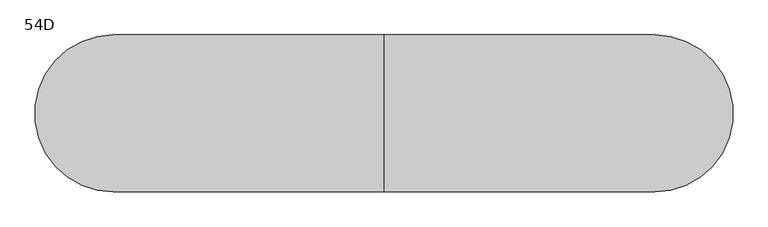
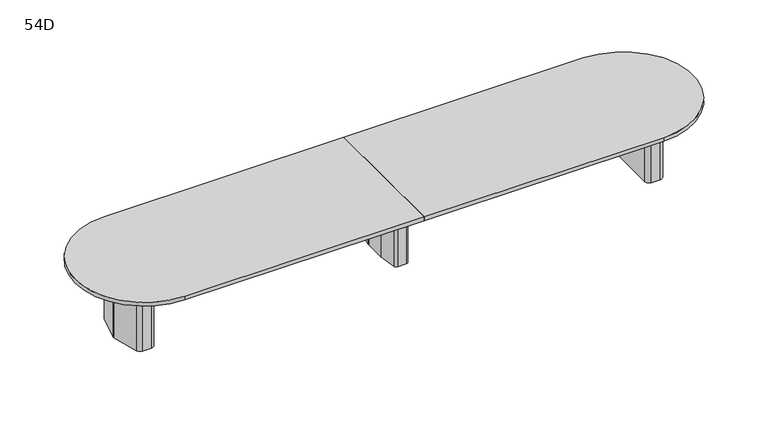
"""IFC4 building model written with IfcOpenShell, lengths in millimetres: furniture geometry, Coalesse_AM_Table_Conference_ETable2_Racetrack_20ft_ThreeBase : 54D."""

from ifc_helpers import new_model, si_unit, point, frame, frame_2d, origin, place, context, project, spatial, polyline, circle_curve, trimmed, segment, composite_curve, outline, extrude, source, transform, mapped, element, save
from ifc_brep_helpers import plane_surface, cylinder_surface, revolved_surface, advanced_brep


def furniture_54d_4fca18bc(model_context):
    return source(origin(), model_context, "Body", "SolidModel", [
        advanced_brep(
        [(35.71875, 206.375, 3.175), (10.31875, 231.775, 3.175), (-10.31875, 231.775, 3.175), (-35.71875, 206.375, 3.175), (-35.71875, -206.375, 3.175), (-10.31875, -231.775, 3.175), (10.31875, -231.775, 3.175), (35.71875, -206.375, 3.175), (-61.11875, 206.375, 0.0), (-10.31875, 257.175, 0.0), (10.31875, 257.175, 0.0), (61.11875, 206.375, 0.0), (61.11875, -206.375, 0.0), (10.31875, -257.175, 0.0), (-10.31875, -257.175, 0.0), (-61.11875, -206.375, 0.0), (-61.11875, -206.375, 3.175), (-61.11875, 206.375, 3.175), (-10.31875, -257.175, 3.175), (10.31875, -257.175, 3.175), (61.11875, -206.375, 3.175), (61.11875, 206.375, 3.175), (10.31875, 257.175, 3.175), (-10.31875, 257.175, 3.175), (-92.6215974, 106.2976848, 698.5), (-92.86875, 102.7629613, 698.5), (-92.86875, -102.7629613, 698.5), (-92.6215974, -106.2976848, 698.5), (-67.7988375, -282.9347235, 698.5), (-42.6459902, -304.8, 698.5), (42.6459902, -304.8, 698.5), (67.7988375, -282.9347235, 698.5), (92.6215974, -106.2976848, 698.5), (92.86875, -102.7629613, 698.5), (92.86875, 102.7629613, 698.5), (92.6215974, 106.2976848, 698.5), (67.7988375, 282.9347235, 698.5), (42.6459902, 304.8, 698.5), (-42.6459902, 304.8, 698.5), (-67.7988375, 282.9347235, 698.5), (10.31875, 231.775, 698.5), (35.71875, 206.375, 698.5), (35.71875, -206.375, 698.5), (10.31875, -231.775, 698.5), (-10.31875, -231.775, 698.5), (-35.71875, -206.375, 698.5), (-35.71875, 206.375, 698.5), (-10.31875, 231.775, 698.5), (-92.6215974, 106.2976848, 3.175), (-67.7988375, 282.9347235, 3.175), (-42.6459902, 304.8, 3.175), (42.6459902, 304.8, 3.175), (67.7988375, 282.9347235, 3.175), (92.6215974, 106.2976848, 3.175), (92.86875, 102.7629613, 3.175), (92.86875, -102.7629613, 3.175), (92.6215974, -106.2976848, 3.175), (67.7988375, -282.9347235, 3.175), (42.6459902, -304.8, 3.175), (-42.6459902, -304.8, 3.175), (-67.7988375, -282.9347235, 3.175), (-92.6215974, -106.2976848, 3.175), (-92.86875, -102.7629613, 3.175), (-92.86875, 102.7629613, 3.175)],
        [
            (0, 1, circle_curve(frame((10.31875, 206.375, 3.175), z_axis=(0.0, 0.0, 1.0), x_axis=(1.0, 0.0, 0.0)), 25.4)),
            (1, 2),
            (2, 3, circle_curve(frame((-10.31875, 206.375, 3.175), z_axis=(0.0, 0.0, 1.0), x_axis=(1.0, 0.0, 0.0)), 25.4)),
            (3, 4),
            (4, 5, circle_curve(frame((-10.31875, -206.375, 3.175), z_axis=(0.0, 0.0, 1.0), x_axis=(1.0, 0.0, 0.0)), 25.4)),
            (5, 6),
            (6, 7, circle_curve(frame((10.31875, -206.375, 3.175), z_axis=(0.0, 0.0, 1.0), x_axis=(1.0, 0.0, 0.0)), 25.4)),
            (7, 0),
            (8, 9, circle_curve(frame((-10.31875, 206.375, 0.0), z_axis=(0.0, 0.0, -1.0), x_axis=(1.0, 0.0, 0.0)), 50.8)),
            (9, 10),
            (10, 11, circle_curve(frame((10.31875, 206.375, 0.0), z_axis=(0.0, 0.0, -1.0), x_axis=(1.0, 0.0, 0.0)), 50.8)),
            (11, 12),
            (12, 13, circle_curve(frame((10.31875, -206.375, 0.0), z_axis=(0.0, 0.0, -1.0), x_axis=(1.0, 0.0, 0.0)), 50.8)),
            (13, 14),
            (14, 15, circle_curve(frame((-10.31875, -206.375, 0.0), z_axis=(0.0, 0.0, -1.0), x_axis=(1.0, 0.0, 0.0)), 50.8)),
            (15, 8),
            (15, 16),
            (16, 17),
            (17, 8),
            (14, 18),
            (18, 16, circle_curve(frame((-10.31875, -206.375, 3.175), z_axis=(0.0, 0.0, -1.0), x_axis=(1.0, 0.0, 0.0)), 50.8)),
            (13, 19),
            (19, 18),
            (12, 20),
            (20, 19, circle_curve(frame((10.31875, -206.375, 3.175), z_axis=(0.0, 0.0, -1.0), x_axis=(1.0, 0.0, 0.0)), 50.8)),
            (11, 21),
            (21, 20),
            (10, 22),
            (22, 21, circle_curve(frame((10.31875, 206.375, 3.175), z_axis=(0.0, 0.0, -1.0), x_axis=(1.0, 0.0, 0.0)), 50.8)),
            (9, 23),
            (23, 22),
            (17, 23, circle_curve(frame((-10.31875, 206.375, 3.175), z_axis=(0.0, 0.0, -1.0), x_axis=(1.0, 0.0, 0.0)), 50.8)),
            (24, 25, circle_curve(frame((-67.46875, 102.7629613, 698.5), z_axis=(0.0, 0.0, 1.0), x_axis=(1.0, 0.0, 0.0)), 25.4)),
            (25, 26),
            (26, 27, circle_curve(frame((-67.46875, -102.7629613, 698.5), z_axis=(0.0, 0.0, 1.0), x_axis=(1.0, 0.0, 0.0)), 25.4)),
            (27, 28),
            (28, 29, circle_curve(frame((-42.6459902, -279.4, 698.5), z_axis=(0.0, 0.0, 1.0), x_axis=(1.0, 0.0, 0.0)), 25.4)),
            (29, 30),
            (30, 31, circle_curve(frame((42.6459902, -279.4, 698.5), z_axis=(0.0, 0.0, 1.0), x_axis=(1.0, 0.0, 0.0)), 25.4)),
            (31, 32),
            (32, 33, circle_curve(frame((67.46875, -102.7629613, 698.5), z_axis=(0.0, 0.0, 1.0), x_axis=(1.0, 0.0, 0.0)), 25.4)),
            (33, 34),
            (34, 35, circle_curve(frame((67.46875, 102.7629613, 698.5), z_axis=(0.0, 0.0, 1.0), x_axis=(1.0, 0.0, 0.0)), 25.4)),
            (35, 36),
            (36, 37, circle_curve(frame((42.6459902, 279.4, 698.5), z_axis=(0.0, 0.0, 1.0), x_axis=(1.0, 0.0, 0.0)), 25.4)),
            (37, 38),
            (38, 39, circle_curve(frame((-42.6459902, 279.4, 698.5), z_axis=(0.0, 0.0, 1.0), x_axis=(1.0, 0.0, 0.0)), 25.4)),
            (39, 24),
            (40, 41, circle_curve(frame((10.31875, 206.375, 698.5), z_axis=(0.0, 0.0, -1.0), x_axis=(1.0, 0.0, 0.0)), 25.4)),
            (41, 42),
            (42, 43, circle_curve(frame((10.31875, -206.375, 698.5), z_axis=(0.0, 0.0, -1.0), x_axis=(1.0, 0.0, 0.0)), 25.4)),
            (43, 44),
            (44, 45, circle_curve(frame((-10.31875, -206.375, 698.5), z_axis=(0.0, 0.0, -1.0), x_axis=(1.0, 0.0, 0.0)), 25.4)),
            (45, 46),
            (46, 47, circle_curve(frame((-10.31875, 206.375, 698.5), z_axis=(0.0, 0.0, -1.0), x_axis=(1.0, 0.0, 0.0)), 25.4)),
            (47, 40),
            (48, 49),
            (49, 50, circle_curve(frame((-42.6459902, 279.4, 3.175), z_axis=(0.0, 0.0, -1.0), x_axis=(1.0, 0.0, 0.0)), 25.4)),
            (50, 51),
            (51, 52, circle_curve(frame((42.6459902, 279.4, 3.175), z_axis=(0.0, 0.0, -1.0), x_axis=(1.0, 0.0, 0.0)), 25.4)),
            (52, 53),
            (53, 54, circle_curve(frame((67.46875, 102.7629613, 3.175), z_axis=(0.0, 0.0, -1.0), x_axis=(1.0, 0.0, 0.0)), 25.4)),
            (54, 55),
            (55, 56, circle_curve(frame((67.46875, -102.7629613, 3.175), z_axis=(0.0, 0.0, -1.0), x_axis=(1.0, 0.0, 0.0)), 25.4)),
            (56, 57),
            (57, 58, circle_curve(frame((42.6459902, -279.4, 3.175), z_axis=(0.0, 0.0, -1.0), x_axis=(1.0, 0.0, 0.0)), 25.4)),
            (58, 59),
            (59, 60, circle_curve(frame((-42.6459902, -279.4, 3.175), z_axis=(0.0, 0.0, -1.0), x_axis=(1.0, 0.0, 0.0)), 25.4)),
            (60, 61),
            (61, 62, circle_curve(frame((-67.46875, -102.7629613, 3.175), z_axis=(0.0, 0.0, -1.0), x_axis=(1.0, 0.0, 0.0)), 25.4)),
            (62, 63),
            (63, 48, circle_curve(frame((-67.46875, 102.7629613, 3.175), z_axis=(0.0, 0.0, -1.0), x_axis=(1.0, 0.0, 0.0)), 25.4)),
            (24, 48),
            (63, 25),
            (62, 26),
            (61, 27),
            (60, 28),
            (59, 29),
            (58, 30),
            (57, 31),
            (56, 32),
            (55, 33),
            (54, 34),
            (53, 35),
            (52, 36),
            (51, 37),
            (50, 38),
            (49, 39),
            (40, 1),
            (0, 41),
            (7, 42),
            (6, 43),
            (5, 44),
            (4, 45),
            (3, 46),
            (2, 47),
        ],
        [
            plane_surface(frame((-61.11875, -206.375, 3.175), z_axis=(0.0, 0.0, 1.0), x_axis=(0.0, -1.0, 0.0))),
            plane_surface(frame((-61.11875, -206.375, 0.0), z_axis=(0.0, 0.0, -1.0), x_axis=(0.0, 1.0, 0.0))),
            plane_surface(frame((-61.11875, 206.375, 3.175), z_axis=(-1.0, 0.0, 0.0), x_axis=(0.0, 0.0, -1.0))),
            cylinder_surface(frame((-10.31875, -206.375, 0.0), z_axis=(0.0, 0.0, 1.0), x_axis=(1.0, 0.0, 0.0)), 50.8),
            plane_surface(frame((-10.31875, -257.175, 3.175), z_axis=(0.0, -1.0, 0.0), x_axis=(0.0, 0.0, -1.0))),
            cylinder_surface(frame((10.31875, -206.375, 0.0), z_axis=(0.0, 0.0, 1.0), x_axis=(1.0, 0.0, 0.0)), 50.8),
            plane_surface(frame((61.11875, -206.375, 3.175), z_axis=(1.0, 0.0, 0.0), x_axis=(0.0, 0.0, -1.0))),
            cylinder_surface(frame((10.31875, 206.375, 0.0), z_axis=(0.0, 0.0, 1.0), x_axis=(1.0, 0.0, 0.0)), 50.8),
            plane_surface(frame((10.31875, 257.175, 3.175), z_axis=(0.0, 1.0, 0.0), x_axis=(0.0, 0.0, -1.0))),
            cylinder_surface(frame((-10.31875, 206.375, 0.0), z_axis=(0.0, 0.0, 1.0), x_axis=(1.0, 0.0, 0.0)), 50.8),
            plane_surface(frame((-42.06875, 102.7629613, 698.5), z_axis=(0.0, 0.0, 1.0), x_axis=(0.0, 1.0, 0.0))),
            plane_surface(frame((-42.06875, 102.7629613, 3.175), z_axis=(0.0, 0.0, -1.0), x_axis=(0.0, -1.0, 0.0))),
            cylinder_surface(frame((-67.46875, 102.7629613, 3.175), z_axis=(0.0, 0.0, 1.0), x_axis=(1.0, 0.0, 0.0)), 25.4),
            plane_surface(frame((-92.86875, 102.7629613, 698.5), z_axis=(-1.0, 0.0, 0.0), x_axis=(0.0, 0.0, -1.0))),
            cylinder_surface(frame((-67.46875, -102.7629613, 3.175), z_axis=(0.0, 0.0, 1.0), x_axis=(1.0, 0.0, 0.0)), 25.4),
            plane_surface(frame((-92.6215974, -106.2976848, 698.5), z_axis=(-0.9902695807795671, -0.13916234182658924, 0.0), x_axis=(0.0, 0.0, -1.0))),
            cylinder_surface(frame((-42.6459902, -279.4, 3.175), z_axis=(0.0, 0.0, 1.0), x_axis=(1.0, 0.0, 0.0)), 25.4),
            plane_surface(frame((-42.6459902, -304.8, 698.5), z_axis=(0.0, -1.0, 0.0), x_axis=(0.0, 0.0, -1.0))),
            cylinder_surface(frame((42.6459902, -279.4, 3.175), z_axis=(0.0, 0.0, 1.0), x_axis=(1.0, 0.0, 0.0)), 25.4),
            plane_surface(frame((67.7988375, -282.9347235, 698.5), z_axis=(0.9902695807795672, -0.13916234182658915, 0.0), x_axis=(0.0, 0.0, -1.0))),
            cylinder_surface(frame((67.46875, -102.7629613, 3.175), z_axis=(0.0, 0.0, 1.0), x_axis=(1.0, 0.0, 0.0)), 25.4),
            plane_surface(frame((92.86875, -102.7629613, 698.5), z_axis=(1.0, 0.0, 0.0), x_axis=(0.0, 0.0, -1.0))),
            cylinder_surface(frame((67.46875, 102.7629613, 3.175), z_axis=(0.0, 0.0, 1.0), x_axis=(1.0, 0.0, 0.0)), 25.4),
            plane_surface(frame((92.6215974, 106.2976848, 698.5), z_axis=(0.9902695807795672, 0.1391623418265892, 0.0), x_axis=(0.0, 0.0, -1.0))),
            cylinder_surface(frame((42.6459902, 279.4, 3.175), z_axis=(0.0, 0.0, 1.0), x_axis=(1.0, 0.0, 0.0)), 25.4),
            plane_surface(frame((42.6459902, 304.8, 698.5), z_axis=(0.0, 1.0, 0.0), x_axis=(0.0, 0.0, -1.0))),
            cylinder_surface(frame((-42.6459902, 279.4, 3.175), z_axis=(0.0, 0.0, 1.0), x_axis=(1.0, 0.0, 0.0)), 25.4),
            plane_surface(frame((-67.7988375, 282.9347235, 698.5), z_axis=(-0.9902695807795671, 0.13916234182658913, 0.0), x_axis=(0.0, 0.0, -1.0))),
            revolved_surface(polyline([(35.71875, 206.375, 3.175), (35.71875, 206.375, 698.5)]), (10.31875, 206.375, 0.0), (0.0, 0.0, -1.0)),
            plane_surface(frame((35.71875, 206.375, 698.5), z_axis=(-1.0, 0.0, 0.0), x_axis=(0.0, 0.0, -1.0))),
            revolved_surface(polyline([(35.71875, -206.375, 3.175), (35.71875, -206.375, 698.5)]), (10.31875, -206.375, 0.0), (0.0, 0.0, -1.0)),
            plane_surface(frame((10.31875, -231.775, 698.5), z_axis=(0.0, 1.0, 0.0), x_axis=(0.0, 0.0, -1.0))),
            revolved_surface(polyline([(15.081249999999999, -206.375, 3.175), (15.081249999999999, -206.375, 698.5)]), (-10.31875, -206.375, 0.0), (0.0, 0.0, -1.0)),
            plane_surface(frame((-35.71875, -206.375, 698.5), z_axis=(1.0, 0.0, 0.0), x_axis=(0.0, 0.0, -1.0))),
            revolved_surface(polyline([(15.081249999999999, 206.375, 3.175), (15.081249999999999, 206.375, 698.5)]), (-10.31875, 206.375, 0.0), (0.0, 0.0, -1.0)),
            plane_surface(frame((-10.31875, 231.775, 698.5), z_axis=(0.0, -1.0, 0.0), x_axis=(0.0, 0.0, -1.0))),
        ],
        [
            (0, [[1, 2, 3, 4, 5, 6, 7, 8]]),
            (1, [[9, 10, 11, 12, 13, 14, 15, 16]]),
            (2, [[-16, 17, 18, 19]]),
            (3, [[-15, 20, 21, -17]]),
            (4, [[-14, 22, 23, -20]]),
            (5, [[-13, 24, 25, -22]]),
            (6, [[-12, 26, 27, -24]]),
            (7, [[-11, 28, 29, -26]]),
            (8, [[-10, 30, 31, -28]]),
            (9, [[-9, -19, 32, -30]]),
            (10, [[33, 34, 35, 36, 37, 38, 39, 40, 41, 42, 43, 44, 45, 46, 47, 48], [49, 50, 51, 52, 53, 54, 55, 56]]),
            (11, [[57, 58, 59, 60, 61, 62, 63, 64, 65, 66, 67, 68, 69, 70, 71, 72], [-18, -21, -23, -25, -27, -29, -31, -32]]),
            (12, [[-33, 73, -72, 74]]),
            (13, [[-34, -74, -71, 75]]),
            (14, [[-35, -75, -70, 76]]),
            (15, [[-36, -76, -69, 77]]),
            (16, [[-37, -77, -68, 78]]),
            (17, [[-38, -78, -67, 79]]),
            (18, [[-39, -79, -66, 80]]),
            (19, [[-40, -80, -65, 81]]),
            (20, [[-41, -81, -64, 82]]),
            (21, [[-42, -82, -63, 83]]),
            (22, [[-43, -83, -62, 84]]),
            (23, [[-44, -84, -61, 85]]),
            (24, [[-45, -85, -60, 86]]),
            (25, [[-46, -86, -59, 87]]),
            (26, [[-47, -87, -58, 88]]),
            (27, [[-48, -88, -57, -73]]),
            (28, [[-49, 89, -1, 90]]),
            (29, [[-50, -90, -8, 91]]),
            (30, [[-51, -91, -7, 92]]),
            (31, [[-52, -92, -6, 93]]),
            (32, [[-53, -93, -5, 94]]),
            (33, [[-54, -94, -4, 95]]),
            (34, [[-55, -95, -3, 96]]),
            (35, [[-56, -96, -2, -89]]),
        ],
    ),
        advanced_brep(
        [(2589.424548, 274.2093613, 698.5), (2549.5579246, 304.8, 698.5), (2460.625, 304.8, 698.5), (2419.35, 263.525, 698.5), (2419.35, -263.525, 698.5), (2460.625, -304.8, 698.5), (2549.5579246, -304.8, 698.5), (2589.424548, -274.2093613, 698.5), (2660.0503901, -10.6333708, 698.5), (2660.0503901, 10.6333708, 698.5), (2457.45, -206.375, 698.5), (2457.45, 206.375, 698.5), (2482.85, 231.775, 698.5), (2541.8608422, 231.775, 698.5), (2566.395338, 212.9490792, 698.5), (2605.0875, 68.54974, 698.5), (2605.0875, -68.54974, 698.5), (2566.395338, -212.9490792, 698.5), (2541.8608422, -231.775, 698.5), (2482.85, -231.775, 698.5), (2589.424548, 274.2093613, 3.175), (2660.0503901, 10.6333708, 3.175), (2660.0503901, -10.6333708, 3.175), (2589.424548, -274.2093613, 3.175), (2549.5579246, -304.8, 3.175), (2460.625, -304.8, 3.175), (2419.35, -263.525, 3.175), (2419.35, 263.525, 3.175), (2460.625, 304.8, 3.175), (2549.5579246, 304.8, 3.175), (2578.6625859, 216.2361187, 3.175), (2541.8608422, 244.475, 3.175), (2482.85, 244.475, 3.175), (2444.75, 206.375, 3.175), (2444.75, -206.375, 3.175), (2482.85, -244.475, 3.175), (2541.8608422, -244.475, 3.175), (2578.6625859, -216.2361187, 3.175), (2617.7875, -70.2217466, 3.175), (2617.7875, 70.2217466, 3.175), (2482.85, -231.775, 3.175), (2457.45, -206.375, 3.175), (2541.8608422, -231.775, 3.175), (2566.395338, -212.9490792, 3.175), (2605.0875, -68.54974, 3.175), (2605.0875, 68.54974, 3.175), (2566.395338, 212.9490792, 3.175), (2541.8608422, 231.775, 3.175), (2482.85, 231.775, 3.175), (2457.45, 206.375, 3.175), (2578.6625859, 216.2361187, 0.0), (2617.7875, 70.2217466, 0.0), (2617.7875, -70.2217466, 0.0), (2578.6625859, -216.2361187, 0.0), (2541.8608422, -244.475, 0.0), (2482.85, -244.475, 0.0), (2444.75, -206.375, 0.0), (2444.75, 206.375, 0.0), (2482.85, 244.475, 0.0), (2541.8608422, 244.475, 0.0)],
        [
            (0, 1, circle_curve(frame((2549.5579246, 263.5270004, 698.5), z_axis=(0.0, 0.0, 1.0), x_axis=(-1.0, 0.0, 0.0)), 41.2729996)),
            (1, 2),
            (2, 3, circle_curve(frame((2460.625, 263.525, 698.5), z_axis=(0.0, 0.0, 1.0), x_axis=(-1.0, 0.0, 0.0)), 41.275)),
            (3, 4),
            (4, 5, circle_curve(frame((2460.625, -263.525, 698.5), z_axis=(0.0, 0.0, 1.0), x_axis=(-1.0, 0.0, 0.0)), 41.275)),
            (5, 6),
            (6, 7, circle_curve(frame((2549.5579246, -263.5270004, 698.5), z_axis=(0.0, 0.0, 1.0), x_axis=(-1.0, 0.0, 0.0)), 41.2729996)),
            (7, 8),
            (8, 9, circle_curve(frame((2620.3665979, 0.0, 698.5), z_axis=(0.0, 0.0, 1.0), x_axis=(-1.0, 0.0, 0.0)), 41.0837187)),
            (9, 0),
            (10, 11),
            (11, 12, circle_curve(frame((2482.85, 206.375, 698.5), z_axis=(0.0, 0.0, -1.0), x_axis=(-1.0, 0.0, 0.0)), 25.4)),
            (12, 13),
            (13, 14, circle_curve(frame((2541.8608422, 206.375, 698.5), z_axis=(0.0, 0.0, -1.0), x_axis=(-1.0, 0.0, 0.0)), 25.4)),
            (14, 15),
            (15, 16),
            (16, 17),
            (17, 18, circle_curve(frame((2541.8608422, -206.375, 698.5), z_axis=(0.0, 0.0, -1.0), x_axis=(-1.0, 0.0, 0.0)), 25.4)),
            (18, 19),
            (19, 10, circle_curve(frame((2482.85, -206.375, 698.5), z_axis=(0.0, 0.0, -1.0), x_axis=(-1.0, 0.0, 0.0)), 25.4)),
            (20, 21),
            (21, 22, circle_curve(frame((2620.3665979, 0.0, 3.175), z_axis=(0.0, 0.0, -1.0), x_axis=(-1.0, 0.0, 0.0)), 41.0837187)),
            (22, 23),
            (23, 24, circle_curve(frame((2549.5579246, -263.5270004, 3.175), z_axis=(0.0, 0.0, -1.0), x_axis=(-1.0, 0.0, 0.0)), 41.2729996)),
            (24, 25),
            (25, 26, circle_curve(frame((2460.625, -263.525, 3.175), z_axis=(0.0, 0.0, -1.0), x_axis=(-1.0, 0.0, 0.0)), 41.275)),
            (26, 27),
            (27, 28, circle_curve(frame((2460.625, 263.525, 3.175), z_axis=(0.0, 0.0, -1.0), x_axis=(-1.0, 0.0, 0.0)), 41.275)),
            (28, 29),
            (29, 20, circle_curve(frame((2549.5579246, 263.5270004, 3.175), z_axis=(0.0, 0.0, -1.0), x_axis=(-1.0, 0.0, 0.0)), 41.2729996)),
            (30, 31, circle_curve(frame((2541.8608422, 206.375, 3.175), z_axis=(0.0, 0.0, 1.0), x_axis=(-1.0, 0.0, 0.0)), 38.1)),
            (31, 32),
            (32, 33, circle_curve(frame((2482.85, 206.375, 3.175), z_axis=(0.0, 0.0, 1.0), x_axis=(-1.0, 0.0, 0.0)), 38.1)),
            (33, 34),
            (34, 35, circle_curve(frame((2482.85, -206.375, 3.175), z_axis=(0.0, 0.0, 1.0), x_axis=(-1.0, 0.0, 0.0)), 38.1)),
            (35, 36),
            (36, 37, circle_curve(frame((2541.8608422, -206.375, 3.175), z_axis=(0.0, 0.0, 1.0), x_axis=(-1.0, 0.0, 0.0)), 38.1)),
            (37, 38),
            (38, 39),
            (39, 30),
            (9, 21),
            (20, 0),
            (8, 22),
            (7, 23),
            (6, 24),
            (5, 25),
            (4, 26),
            (3, 27),
            (2, 28),
            (1, 29),
            (19, 40),
            (40, 41, circle_curve(frame((2482.85, -206.375, 3.175), z_axis=(0.0, 0.0, -1.0), x_axis=(-1.0, 0.0, 0.0)), 25.4)),
            (41, 10),
            (18, 42),
            (42, 40),
            (17, 43),
            (43, 42, circle_curve(frame((2541.8608422, -206.375, 3.175), z_axis=(0.0, 0.0, -1.0), x_axis=(-1.0, 0.0, 0.0)), 25.4)),
            (16, 44),
            (44, 43),
            (15, 45),
            (45, 44),
            (14, 46),
            (46, 45),
            (13, 47),
            (47, 46, circle_curve(frame((2541.8608422, 206.375, 3.175), z_axis=(0.0, 0.0, -1.0), x_axis=(-1.0, 0.0, 0.0)), 25.4)),
            (12, 48),
            (48, 47),
            (11, 49),
            (49, 48, circle_curve(frame((2482.85, 206.375, 3.175), z_axis=(0.0, 0.0, -1.0), x_axis=(-1.0, 0.0, 0.0)), 25.4)),
            (41, 49),
            (50, 51),
            (51, 52),
            (52, 53),
            (53, 54, circle_curve(frame((2541.8608422, -206.375, 0.0), z_axis=(0.0, 0.0, -1.0), x_axis=(-1.0, 0.0, 0.0)), 38.1)),
            (54, 55),
            (55, 56, circle_curve(frame((2482.85, -206.375, 0.0), z_axis=(0.0, 0.0, -1.0), x_axis=(-1.0, 0.0, 0.0)), 38.1)),
            (56, 57),
            (57, 58, circle_curve(frame((2482.85, 206.375, 0.0), z_axis=(0.0, 0.0, -1.0), x_axis=(-1.0, 0.0, 0.0)), 38.1)),
            (58, 59),
            (59, 50, circle_curve(frame((2541.8608422, 206.375, 0.0), z_axis=(0.0, 0.0, -1.0), x_axis=(-1.0, 0.0, 0.0)), 38.1)),
            (50, 30),
            (39, 51),
            (38, 52),
            (37, 53),
            (36, 54),
            (35, 55),
            (34, 56),
            (33, 57),
            (32, 58),
            (31, 59),
        ],
        [
            plane_surface(frame((2660.0374275, 10.6817473, 698.5), z_axis=(0.0, 0.0, 1.0000000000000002), x_axis=(0.25882201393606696, -0.9659250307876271, 0.0))),
            plane_surface(frame((2660.0374275, 10.6817473, 3.175), z_axis=(0.0, 0.0, -1.0000000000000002), x_axis=(-0.25882201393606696, 0.9659250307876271, 0.0))),
            plane_surface(frame((2589.424548, 274.2093613, 698.5), z_axis=(0.9659250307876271, 0.25882201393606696, 0.0), x_axis=(0.0, 0.0, -1.0))),
            cylinder_surface(frame((2620.3665979, 0.0, 3.175), z_axis=(0.0, 0.0, 1.0), x_axis=(-1.0, 0.0, 0.0)), 41.0837187),
            plane_surface(frame((2660.0503901, -10.6333708, 698.5), z_axis=(0.9659250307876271, -0.2588220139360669, 0.0), x_axis=(0.0, 0.0, -1.0))),
            cylinder_surface(frame((2549.5579246, -263.5270004, 3.175), z_axis=(0.0, 0.0, 1.0), x_axis=(-1.0, 0.0, 0.0)), 41.2729996),
            plane_surface(frame((2549.5579246, -304.8, 698.5), z_axis=(0.0, -1.0, 0.0), x_axis=(0.0, 0.0, -1.0))),
            cylinder_surface(frame((2460.625, -263.525, 3.175), z_axis=(0.0, 0.0, 1.0), x_axis=(-1.0, 0.0, 0.0)), 41.275),
            plane_surface(frame((2419.35, -263.525, 698.5), z_axis=(-1.0, 0.0, 0.0), x_axis=(0.0, 0.0, -1.0))),
            cylinder_surface(frame((2460.625, 263.525, 3.175), z_axis=(0.0, 0.0, 1.0), x_axis=(-1.0, 0.0, 0.0)), 41.275),
            plane_surface(frame((2460.625, 304.8, 698.5), z_axis=(0.0, 1.0, 0.0), x_axis=(0.0, 0.0, -1.0))),
            cylinder_surface(frame((2549.5579246, 263.5270004, 3.175), z_axis=(0.0, 0.0, 1.0), x_axis=(-1.0, 0.0, 0.0)), 41.2729996),
            revolved_surface(polyline([(2457.45, -206.375, 3.175), (2457.45, -206.375, 698.5)]), (2482.85, -206.375, 0.0), (0.0, 0.0, -1.0)),
            plane_surface(frame((2482.85, -231.775, 698.5), z_axis=(0.0, 1.0, 0.0), x_axis=(0.0, 0.0, -1.0))),
            revolved_surface(polyline([(2516.4608422, -206.375, 3.175), (2516.4608422, -206.375, 698.5)]), (2541.8608422, -206.375, 0.0), (0.0, 0.0, -1.0)),
            plane_surface(frame((2566.395338, -212.9490792, 698.5), z_axis=(-0.9659250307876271, 0.2588220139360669, 0.0), x_axis=(0.0, 0.0, -1.0))),
            plane_surface(frame((2605.0875, -68.54974, 698.5), z_axis=(-1.0, 0.0, 0.0), x_axis=(0.0, 0.0, -1.0))),
            plane_surface(frame((2605.0875, 68.54974, 698.5), z_axis=(-0.9659250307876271, -0.25882201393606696, 0.0), x_axis=(0.0, 0.0, -1.0))),
            revolved_surface(polyline([(2516.4608422, 206.375, 3.175), (2516.4608422, 206.375, 698.5)]), (2541.8608422, 206.375, 0.0), (0.0, 0.0, -1.0)),
            plane_surface(frame((2541.8608422, 231.775, 698.5), z_axis=(0.0, -1.0, 0.0), x_axis=(0.0, 0.0, -1.0))),
            revolved_surface(polyline([(2457.45, 206.375, 3.175), (2457.45, 206.375, 698.5)]), (2482.85, 206.375, 0.0), (0.0, 0.0, -1.0)),
            plane_surface(frame((2457.45, 206.375, 698.5), z_axis=(1.0, 0.0, 0.0), x_axis=(0.0, 0.0, -1.0))),
            plane_surface(frame((2617.3547479, 71.8367796, 3.175), z_axis=(0.0, 0.0, 1.0), x_axis=(0.25882201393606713, -0.965925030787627, 0.0))),
            plane_surface(frame((2617.3547479, 71.8367796, 0.0), z_axis=(0.0, 0.0, -1.0), x_axis=(-0.25882201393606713, 0.965925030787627, 0.0))),
            plane_surface(frame((2578.6625859, 216.2361187, 3.175), z_axis=(0.965925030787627, 0.25882201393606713, 0.0), x_axis=(0.0, 0.0, -1.0))),
            plane_surface(frame((2617.7875, 70.2217466, 3.175), z_axis=(1.0, 0.0, 0.0), x_axis=(0.0, 0.0, -1.0))),
            plane_surface(frame((2617.7875, -70.2217466, 3.175), z_axis=(0.9659250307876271, -0.2588220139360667, 0.0), x_axis=(0.0, 0.0, -1.0))),
            cylinder_surface(frame((2541.8608422, -206.375, 0.0), z_axis=(0.0, 0.0, 1.0), x_axis=(-1.0, 0.0, 0.0)), 38.1),
            plane_surface(frame((2541.8608422, -244.475, 3.175), z_axis=(0.0, -1.0, 0.0), x_axis=(0.0, 0.0, -1.0))),
            cylinder_surface(frame((2482.85, -206.375, 0.0), z_axis=(0.0, 0.0, 1.0), x_axis=(-1.0, 0.0, 0.0)), 38.1),
            plane_surface(frame((2444.75, -206.375, 3.175), z_axis=(-1.0, 0.0, 0.0), x_axis=(0.0, 0.0, -1.0))),
            cylinder_surface(frame((2482.85, 206.375, 0.0), z_axis=(0.0, 0.0, 1.0), x_axis=(-1.0, 0.0, 0.0)), 38.1),
            plane_surface(frame((2482.85, 244.475, 3.175), z_axis=(0.0, 1.0, 0.0), x_axis=(0.0, 0.0, -1.0))),
            cylinder_surface(frame((2541.8608422, 206.375, 0.0), z_axis=(0.0, 0.0, 1.0), x_axis=(-1.0, 0.0, 0.0)), 38.1),
        ],
        [
            (0, [[1, 2, 3, 4, 5, 6, 7, 8, 9, 10], [11, 12, 13, 14, 15, 16, 17, 18, 19, 20]]),
            (1, [[21, 22, 23, 24, 25, 26, 27, 28, 29, 30], [31, 32, 33, 34, 35, 36, 37, 38, 39, 40]]),
            (2, [[41, -21, 42, -10]]),
            (3, [[43, -22, -41, -9]]),
            (4, [[44, -23, -43, -8]]),
            (5, [[45, -24, -44, -7]]),
            (6, [[46, -25, -45, -6]]),
            (7, [[47, -26, -46, -5]]),
            (8, [[48, -27, -47, -4]]),
            (9, [[49, -28, -48, -3]]),
            (10, [[50, -29, -49, -2]]),
            (11, [[-42, -30, -50, -1]]),
            (12, [[51, 52, 53, -20]]),
            (13, [[54, 55, -51, -19]]),
            (14, [[56, 57, -54, -18]]),
            (15, [[58, 59, -56, -17]]),
            (16, [[60, 61, -58, -16]]),
            (17, [[62, 63, -60, -15]]),
            (18, [[64, 65, -62, -14]]),
            (19, [[66, 67, -64, -13]]),
            (20, [[68, 69, -66, -12]]),
            (21, [[-53, 70, -68, -11]]),
            (22, [[-55, -57, -59, -61, -63, -65, -67, -69, -70, -52]]),
            (23, [[71, 72, 73, 74, 75, 76, 77, 78, 79, 80]]),
            (24, [[81, -40, 82, -71]]),
            (25, [[-82, -39, 83, -72]]),
            (26, [[-83, -38, 84, -73]]),
            (27, [[-84, -37, 85, -74]]),
            (28, [[-85, -36, 86, -75]]),
            (29, [[-86, -35, 87, -76]]),
            (30, [[-87, -34, 88, -77]]),
            (31, [[-88, -33, 89, -78]]),
            (32, [[-89, -32, 90, -79]]),
            (33, [[-90, -31, -81, -80]]),
        ],
    ),
        advanced_brep(
        [(-2600.537048, 274.2093613, 698.5), (-2671.1628901, 10.6333708, 698.5), (-2671.1628901, -10.6333708, 698.5), (-2600.537048, -274.2093613, 698.5), (-2560.6704246, -304.8, 698.5), (-2471.7375, -304.8, 698.5), (-2430.4625, -263.525, 698.5), (-2430.4625, 263.525, 698.5), (-2471.7375, 304.8, 698.5), (-2560.6704246, 304.8, 698.5), (-2468.5625, -206.375, 698.5), (-2493.9625, -231.775, 698.5), (-2552.9733422, -231.775, 698.5), (-2577.507838, -212.9490792, 698.5), (-2616.2, -68.54974, 698.5), (-2616.2, 68.54974, 698.5), (-2577.507838, 212.9490792, 698.5), (-2552.9733422, 231.775, 698.5), (-2493.9625, 231.775, 698.5), (-2468.5625, 206.375, 698.5), (-2600.537048, 274.2093613, 3.175), (-2560.6704246, 304.8, 3.175), (-2471.7375, 304.8, 3.175), (-2430.4625, 263.525, 3.175), (-2430.4625, -263.525, 3.175), (-2471.7375, -304.8, 3.175), (-2560.6704246, -304.8, 3.175), (-2600.537048, -274.2093613, 3.175), (-2671.1628901, -10.6333708, 3.175), (-2671.1628901, 10.6333708, 3.175), (-2589.7750859, 216.2361187, 3.175), (-2628.9, 70.2217466, 3.175), (-2628.9, -70.2217466, 3.175), (-2589.7750859, -216.2361187, 3.175), (-2552.9733422, -244.475, 3.175), (-2493.9625, -244.475, 3.175), (-2455.8625, -206.375, 3.175), (-2455.8625, 206.375, 3.175), (-2493.9625, 244.475, 3.175), (-2552.9733422, 244.475, 3.175), (-2468.5625, -206.375, 3.175), (-2493.9625, -231.775, 3.175), (-2552.9733422, -231.775, 3.175), (-2577.507838, -212.9490792, 3.175), (-2616.2, -68.54974, 3.175), (-2616.2, 68.54974, 3.175), (-2577.507838, 212.9490792, 3.175), (-2552.9733422, 231.775, 3.175), (-2493.9625, 231.775, 3.175), (-2468.5625, 206.375, 3.175), (-2589.7750859, 216.2361187, 0.0), (-2552.9733422, 244.475, 0.0), (-2493.9625, 244.475, 0.0), (-2455.8625, 206.375, 0.0), (-2455.8625, -206.375, 0.0), (-2493.9625, -244.475, 0.0), (-2552.9733422, -244.475, 0.0), (-2589.7750859, -216.2361187, 0.0), (-2628.9, -70.2217466, 0.0), (-2628.9, 70.2217466, 0.0)],
        [
            (0, 1),
            (1, 2, circle_curve(frame((-2631.4790979, 0.0, 698.5), z_axis=(0.0, 0.0, 1.0), x_axis=(1.0, 0.0, 0.0)), 41.0837187)),
            (2, 3),
            (3, 4, circle_curve(frame((-2560.6704246, -263.5270004, 698.5), z_axis=(0.0, 0.0, 1.0), x_axis=(1.0, 0.0, 0.0)), 41.2729996)),
            (4, 5),
            (5, 6, circle_curve(frame((-2471.7375, -263.525, 698.5), z_axis=(0.0, 0.0, 1.0), x_axis=(1.0, 0.0, 0.0)), 41.275)),
            (6, 7),
            (7, 8, circle_curve(frame((-2471.7375, 263.525, 698.5), z_axis=(0.0, 0.0, 1.0), x_axis=(1.0, 0.0, 0.0)), 41.275)),
            (8, 9),
            (9, 0, circle_curve(frame((-2560.6704246, 263.5270004, 698.5), z_axis=(0.0, 0.0, 1.0), x_axis=(1.0, 0.0, 0.0)), 41.2729996)),
            (10, 11, circle_curve(frame((-2493.9625, -206.375, 698.5), z_axis=(0.0, 0.0, -1.0), x_axis=(1.0, 0.0, 0.0)), 25.4)),
            (11, 12),
            (12, 13, circle_curve(frame((-2552.9733422, -206.375, 698.5), z_axis=(0.0, 0.0, -1.0), x_axis=(1.0, 0.0, 0.0)), 25.4)),
            (13, 14),
            (14, 15),
            (15, 16),
            (16, 17, circle_curve(frame((-2552.9733422, 206.375, 698.5), z_axis=(0.0, 0.0, -1.0), x_axis=(1.0, 0.0, 0.0)), 25.4)),
            (17, 18),
            (18, 19, circle_curve(frame((-2493.9625, 206.375, 698.5), z_axis=(0.0, 0.0, -1.0), x_axis=(1.0, 0.0, 0.0)), 25.4)),
            (19, 10),
            (20, 21, circle_curve(frame((-2560.6704246, 263.5270004, 3.175), z_axis=(0.0, 0.0, -1.0), x_axis=(1.0, 0.0, 0.0)), 41.2729996)),
            (21, 22),
            (22, 23, circle_curve(frame((-2471.7375, 263.525, 3.175), z_axis=(0.0, 0.0, -1.0), x_axis=(1.0, 0.0, 0.0)), 41.275)),
            (23, 24),
            (24, 25, circle_curve(frame((-2471.7375, -263.525, 3.175), z_axis=(0.0, 0.0, -1.0), x_axis=(1.0, 0.0, 0.0)), 41.275)),
            (25, 26),
            (26, 27, circle_curve(frame((-2560.6704246, -263.5270004, 3.175), z_axis=(0.0, 0.0, -1.0), x_axis=(1.0, 0.0, 0.0)), 41.2729996)),
            (27, 28),
            (28, 29, circle_curve(frame((-2631.4790979, 0.0, 3.175), z_axis=(0.0, 0.0, -1.0), x_axis=(1.0, 0.0, 0.0)), 41.0837187)),
            (29, 20),
            (30, 31),
            (31, 32),
            (32, 33),
            (33, 34, circle_curve(frame((-2552.9733422, -206.375, 3.175), z_axis=(0.0, 0.0, 1.0), x_axis=(1.0, 0.0, 0.0)), 38.1)),
            (34, 35),
            (35, 36, circle_curve(frame((-2493.9625, -206.375, 3.175), z_axis=(0.0, 0.0, 1.0), x_axis=(1.0, 0.0, 0.0)), 38.1)),
            (36, 37),
            (37, 38, circle_curve(frame((-2493.9625, 206.375, 3.175), z_axis=(0.0, 0.0, 1.0), x_axis=(1.0, 0.0, 0.0)), 38.1)),
            (38, 39),
            (39, 30, circle_curve(frame((-2552.9733422, 206.375, 3.175), z_axis=(0.0, 0.0, 1.0), x_axis=(1.0, 0.0, 0.0)), 38.1)),
            (0, 20),
            (29, 1),
            (28, 2),
            (27, 3),
            (26, 4),
            (25, 5),
            (24, 6),
            (23, 7),
            (22, 8),
            (21, 9),
            (10, 40),
            (40, 41, circle_curve(frame((-2493.9625, -206.375, 3.175), z_axis=(0.0, 0.0, -1.0), x_axis=(1.0, 0.0, 0.0)), 25.4)),
            (41, 11),
            (41, 42),
            (42, 12),
            (42, 43, circle_curve(frame((-2552.9733422, -206.375, 3.175), z_axis=(0.0, 0.0, -1.0), x_axis=(1.0, 0.0, 0.0)), 25.4)),
            (43, 13),
            (43, 44),
            (44, 14),
            (44, 45),
            (45, 15),
            (45, 46),
            (46, 16),
            (46, 47, circle_curve(frame((-2552.9733422, 206.375, 3.175), z_axis=(0.0, 0.0, -1.0), x_axis=(1.0, 0.0, 0.0)), 25.4)),
            (47, 17),
            (47, 48),
            (48, 18),
            (48, 49, circle_curve(frame((-2493.9625, 206.375, 3.175), z_axis=(0.0, 0.0, -1.0), x_axis=(1.0, 0.0, 0.0)), 25.4)),
            (49, 19),
            (49, 40),
            (50, 51, circle_curve(frame((-2552.9733422, 206.375, 0.0), z_axis=(0.0, 0.0, -1.0), x_axis=(1.0, 0.0, 0.0)), 38.1)),
            (51, 52),
            (52, 53, circle_curve(frame((-2493.9625, 206.375, 0.0), z_axis=(0.0, 0.0, -1.0), x_axis=(1.0, 0.0, 0.0)), 38.1)),
            (53, 54),
            (54, 55, circle_curve(frame((-2493.9625, -206.375, 0.0), z_axis=(0.0, 0.0, -1.0), x_axis=(1.0, 0.0, 0.0)), 38.1)),
            (55, 56),
            (56, 57, circle_curve(frame((-2552.9733422, -206.375, 0.0), z_axis=(0.0, 0.0, -1.0), x_axis=(1.0, 0.0, 0.0)), 38.1)),
            (57, 58),
            (58, 59),
            (59, 50),
            (59, 31),
            (30, 50),
            (58, 32),
            (57, 33),
            (56, 34),
            (55, 35),
            (54, 36),
            (53, 37),
            (52, 38),
            (51, 39),
        ],
        [
            plane_surface(frame((-2671.1499275, 10.6817473, 698.5), z_axis=(0.0, 0.0, 1.0000000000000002), x_axis=(-0.25882201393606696, -0.9659250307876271, 0.0))),
            plane_surface(frame((-2671.1499275, 10.6817473, 3.175), z_axis=(0.0, 0.0, -1.0000000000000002), x_axis=(0.25882201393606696, 0.9659250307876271, 0.0))),
            plane_surface(frame((-2600.537048, 274.2093613, 698.5), z_axis=(-0.9659250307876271, 0.25882201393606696, 0.0), x_axis=(0.0, 0.0, -1.0))),
            cylinder_surface(frame((-2631.4790979, 0.0, 3.175), z_axis=(0.0, 0.0, 1.0), x_axis=(1.0, 0.0, 0.0)), 41.0837187),
            plane_surface(frame((-2671.1628901, -10.6333708, 698.5), z_axis=(-0.9659250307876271, -0.2588220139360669, 0.0), x_axis=(0.0, 0.0, -1.0))),
            cylinder_surface(frame((-2560.6704246, -263.5270004, 3.175), z_axis=(0.0, 0.0, 1.0), x_axis=(1.0, 0.0, 0.0)), 41.2729996),
            plane_surface(frame((-2560.6704246, -304.8, 698.5), z_axis=(0.0, -1.0, 0.0), x_axis=(0.0, 0.0, -1.0))),
            cylinder_surface(frame((-2471.7375, -263.525, 3.175), z_axis=(0.0, 0.0, 1.0), x_axis=(1.0, 0.0, 0.0)), 41.275),
            plane_surface(frame((-2430.4625, -263.525, 698.5), z_axis=(1.0, 0.0, 0.0), x_axis=(0.0, 0.0, -1.0))),
            cylinder_surface(frame((-2471.7375, 263.525, 3.175), z_axis=(0.0, 0.0, 1.0), x_axis=(1.0, 0.0, 0.0)), 41.275),
            plane_surface(frame((-2471.7375, 304.8, 698.5), z_axis=(0.0, 1.0, 0.0), x_axis=(0.0, 0.0, -1.0))),
            cylinder_surface(frame((-2560.6704246, 263.5270004, 3.175), z_axis=(0.0, 0.0, 1.0), x_axis=(1.0, 0.0, 0.0)), 41.2729996),
            revolved_surface(polyline([(-2468.5625, -206.375, 3.175), (-2468.5625, -206.375, 698.5)]), (-2493.9625, -206.375, 0.0), (0.0, 0.0, -1.0)),
            plane_surface(frame((-2493.9625, -231.775, 698.5), z_axis=(0.0, 1.0, 0.0), x_axis=(0.0, 0.0, -1.0))),
            revolved_surface(polyline([(-2527.5733422, -206.375, 3.175), (-2527.5733422, -206.375, 698.5)]), (-2552.9733422, -206.375, 0.0), (0.0, 0.0, -1.0)),
            plane_surface(frame((-2577.507838, -212.9490792, 698.5), z_axis=(0.9659250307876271, 0.2588220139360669, 0.0), x_axis=(0.0, 0.0, -1.0))),
            plane_surface(frame((-2616.2, -68.54974, 698.5), z_axis=(1.0, 0.0, 0.0), x_axis=(0.0, 0.0, -1.0))),
            plane_surface(frame((-2616.2, 68.54974, 698.5), z_axis=(0.9659250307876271, -0.25882201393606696, 0.0), x_axis=(0.0, 0.0, -1.0))),
            revolved_surface(polyline([(-2527.5733422, 206.375, 3.175), (-2527.5733422, 206.375, 698.5)]), (-2552.9733422, 206.375, 0.0), (0.0, 0.0, -1.0)),
            plane_surface(frame((-2552.9733422, 231.775, 698.5), z_axis=(0.0, -1.0, 0.0), x_axis=(0.0, 0.0, -1.0))),
            revolved_surface(polyline([(-2468.5625, 206.375, 3.175), (-2468.5625, 206.375, 698.5)]), (-2493.9625, 206.375, 0.0), (0.0, 0.0, -1.0)),
            plane_surface(frame((-2468.5625, 206.375, 698.5), z_axis=(-1.0, 0.0, 0.0), x_axis=(0.0, 0.0, -1.0))),
            plane_surface(frame((-2628.4672479, 71.8367796, 3.175), z_axis=(0.0, 0.0, 1.0), x_axis=(-0.25882201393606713, -0.965925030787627, 0.0))),
            plane_surface(frame((-2628.4672479, 71.8367796, 0.0), z_axis=(0.0, 0.0, -1.0), x_axis=(0.25882201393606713, 0.965925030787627, 0.0))),
            plane_surface(frame((-2589.7750859, 216.2361187, 3.175), z_axis=(-0.965925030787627, 0.25882201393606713, 0.0), x_axis=(0.0, 0.0, -1.0))),
            plane_surface(frame((-2628.9, 70.2217466, 3.175), z_axis=(-1.0, 0.0, 0.0), x_axis=(0.0, 0.0, -1.0))),
            plane_surface(frame((-2628.9, -70.2217466, 3.175), z_axis=(-0.9659250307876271, -0.2588220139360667, 0.0), x_axis=(0.0, 0.0, -1.0))),
            cylinder_surface(frame((-2552.9733422, -206.375, 0.0), z_axis=(0.0, 0.0, 1.0), x_axis=(1.0, 0.0, 0.0)), 38.1),
            plane_surface(frame((-2552.9733422, -244.475, 3.175), z_axis=(0.0, -1.0, 0.0), x_axis=(0.0, 0.0, -1.0))),
            cylinder_surface(frame((-2493.9625, -206.375, 0.0), z_axis=(0.0, 0.0, 1.0), x_axis=(1.0, 0.0, 0.0)), 38.1),
            plane_surface(frame((-2455.8625, -206.375, 3.175), z_axis=(1.0, 0.0, 0.0), x_axis=(0.0, 0.0, -1.0))),
            cylinder_surface(frame((-2493.9625, 206.375, 0.0), z_axis=(0.0, 0.0, 1.0), x_axis=(1.0, 0.0, 0.0)), 38.1),
            plane_surface(frame((-2493.9625, 244.475, 3.175), z_axis=(0.0, 1.0, 0.0), x_axis=(0.0, 0.0, -1.0))),
            cylinder_surface(frame((-2552.9733422, 206.375, 0.0), z_axis=(0.0, 0.0, 1.0), x_axis=(1.0, 0.0, 0.0)), 38.1),
        ],
        [
            (0, [[1, 2, 3, 4, 5, 6, 7, 8, 9, 10], [11, 12, 13, 14, 15, 16, 17, 18, 19, 20]]),
            (1, [[21, 22, 23, 24, 25, 26, 27, 28, 29, 30], [31, 32, 33, 34, 35, 36, 37, 38, 39, 40]]),
            (2, [[-1, 41, -30, 42]]),
            (3, [[-2, -42, -29, 43]]),
            (4, [[-3, -43, -28, 44]]),
            (5, [[-4, -44, -27, 45]]),
            (6, [[-5, -45, -26, 46]]),
            (7, [[-6, -46, -25, 47]]),
            (8, [[-7, -47, -24, 48]]),
            (9, [[-8, -48, -23, 49]]),
            (10, [[-9, -49, -22, 50]]),
            (11, [[-10, -50, -21, -41]]),
            (12, [[-11, 51, 52, 53]]),
            (13, [[-12, -53, 54, 55]]),
            (14, [[-13, -55, 56, 57]]),
            (15, [[-14, -57, 58, 59]]),
            (16, [[-15, -59, 60, 61]]),
            (17, [[-16, -61, 62, 63]]),
            (18, [[-17, -63, 64, 65]]),
            (19, [[-18, -65, 66, 67]]),
            (20, [[-19, -67, 68, 69]]),
            (21, [[-20, -69, 70, -51]]),
            (22, [[-52, -70, -68, -66, -64, -62, -60, -58, -56, -54]]),
            (23, [[71, 72, 73, 74, 75, 76, 77, 78, 79, 80]]),
            (24, [[-80, 81, -31, 82]]),
            (25, [[-79, 83, -32, -81]]),
            (26, [[-78, 84, -33, -83]]),
            (27, [[-77, 85, -34, -84]]),
            (28, [[-76, 86, -35, -85]]),
            (29, [[-75, 87, -36, -86]]),
            (30, [[-74, 88, -37, -87]]),
            (31, [[-73, 89, -38, -88]]),
            (32, [[-72, 90, -39, -89]]),
            (33, [[-71, -82, -40, -90]]),
        ],
    ),
        extrude(outline(composite_curve([segment(trimmed(circle_curve(frame_2d((2362.2, 0.0)), 685.8), [point((2362.2, 685.8))], [point((2362.2, -685.8))], False, "CARTESIAN"), True, "CONTINUOUS"), segment(polyline([(2362.2, -685.8), (0.0, -685.8), (0.0, 685.8), (2362.2, 685.8)]), True, "CONTINUOUS")], self_intersect=False)), frame((0.0, 0.0, 698.5), z_axis=(0.0, 0.0, 1.0), x_axis=(1.0, 0.0, 0.0)), (0.0, 0.0, 1.0), 38.1),
        extrude(outline(composite_curve([segment(polyline([(0.0, 685.8), (0.0, -685.8), (-2362.2, -685.8)]), True, "CONTINUOUS"), segment(trimmed(circle_curve(frame_2d((-2362.2, 0.0)), 685.8), [point((-2362.2, -685.8))], [point((-2362.2, 685.8))], False, "CARTESIAN"), True, "CONTINUOUS"), segment(polyline([(-2362.2, 685.8), (0.0, 685.8)]), True, "CONTINUOUS")], self_intersect=False)), frame((0.0, 0.0, 698.5), z_axis=(0.0, 0.0, 1.0), x_axis=(1.0, 0.0, 0.0)), (0.0, 0.0, 1.0), 38.1),
        extrude(outline(polyline([(96.8375, 698.5), (103.1875, 698.5), (103.1875, 476.25), (-103.1875, 476.25), (-103.1875, 698.5), (-96.8375, 698.5), (-96.8375, 482.6), (96.8375, 482.6), (96.8375, 698.5)])), frame((-2430.4625, 0.0, 0.0), z_axis=(1.0, 0.0, 0.0), x_axis=(0.0, 1.0, 0.0)), (0.0, 0.0, 1.0), 4849.8125),
    ])


if __name__ == "__main__":
    model = new_model("IFC4")
    model_context = context("Model", 3, world=origin())
    ifc_project = project(units=[si_unit("LENGTHUNIT", "METRE", prefix="MILLI")], contexts=[model_context])
    site = spatial("IfcSite", under=ifc_project)
    building = spatial("IfcBuilding", under=site)
    placement = place(None, origin())
    furniture_54d_shape = furniture_54d_4fca18bc(model_context)
    element("IfcFurniture", 1, ObjectType="Coalesse_AM_Table_Conference_ETable2_Racetrack_20ft_ThreeBase : 54D", at=placement, inside=building, context=model_context, shape_type="MappedRepresentation", body=[
        mapped(furniture_54d_shape, transform((0.0, 0.0, 0.0), x_axis=(1.0, 0.0, 0.0), y_axis=(0.0, 1.0, 0.0), z_axis=(0.0, 0.0, 1.0))),
    ])
    save(model, "model.ifc")
